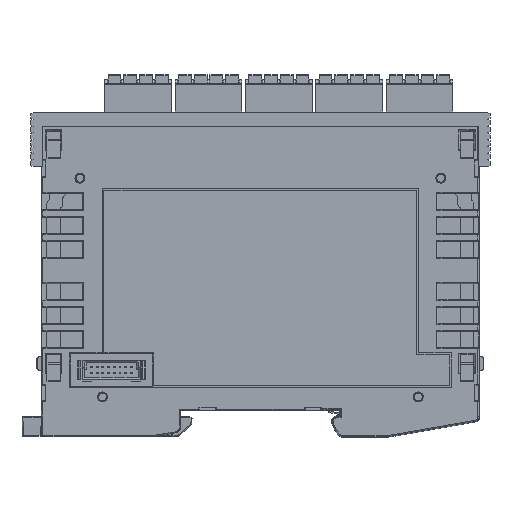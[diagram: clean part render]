
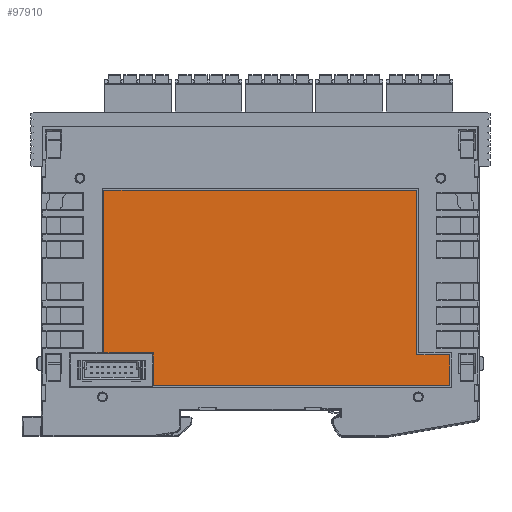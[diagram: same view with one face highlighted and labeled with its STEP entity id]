
A CAD part, left-side view. The second image highlights one B-rep face of the part: STEP entity #97910.
In plain terms, the highlighted planar face has unit normal (-1, 0, 0).
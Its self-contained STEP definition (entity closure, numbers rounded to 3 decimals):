
#1895 = VERTEX_POINT ( 'NONE', #56667 ) ;
#2331 = CARTESIAN_POINT ( 'NONE',  ( 0., 6.455, -57.45 ) ) ;
#4851 = DIRECTION ( 'NONE',  ( -1., 0., 0. ) ) ;
#7561 = VECTOR ( 'NONE', #40316, 1000. ) ;
#13637 = CARTESIAN_POINT ( 'NONE',  ( 0., 72.105, -57.45 ) ) ;
#14894 = ORIENTED_EDGE ( 'NONE', *, *, #114440, .F. ) ;
#15398 = VERTEX_POINT ( 'NONE', #37335 ) ;
#22501 = FACE_OUTER_BOUND ( 'NONE', #51947, .T. ) ;
#26430 = VERTEX_POINT ( 'NONE', #128983 ) ;
#26650 = VECTOR ( 'NONE', #65569, 1000. ) ;
#28659 = VERTEX_POINT ( 'NONE', #62961 ) ;
#29990 = VERTEX_POINT ( 'NONE', #107191 ) ;
#30238 = VERTEX_POINT ( 'NONE', #121022 ) ;
#31588 = DIRECTION ( 'NONE',  ( 0., -1., 0. ) ) ;
#33922 = EDGE_CURVE ( 'NONE', #30238, #98076, #100992, .T. ) ;
#35687 = LINE ( 'NONE', #103636, #7561 ) ;
#37335 = CARTESIAN_POINT ( 'NONE',  ( 0., 72.105, -50.25 ) ) ;
#37644 = DIRECTION ( 'NONE',  ( 0., 1., 0. ) ) ;
#38223 = ORIENTED_EDGE ( 'NONE', *, *, #33922, .F. ) ;
#40316 = DIRECTION ( 'NONE',  ( 0., -1., 0. ) ) ;
#43249 = VERTEX_POINT ( 'NONE', #59829 ) ;
#44661 = CARTESIAN_POINT ( 'NONE',  ( 0., 13.725, -50.65 ) ) ;
#44746 = LINE ( 'NONE', #127268, #100958 ) ;
#45024 = VECTOR ( 'NONE', #119058, 1000. ) ;
#48074 = EDGE_CURVE ( 'NONE', #98076, #1895, #35687, .T. ) ;
#48308 = LINE ( 'NONE', #44661, #45024 ) ;
#51947 = EDGE_LOOP ( 'NONE', ( #68408, #134996, #55657, #38223, #128735, #122258, #14894, #54893 ) ) ;
#54893 = ORIENTED_EDGE ( 'NONE', *, *, #113624, .F. ) ;
#55657 = ORIENTED_EDGE ( 'NONE', *, *, #48074, .F. ) ;
#56667 = CARTESIAN_POINT ( 'NONE',  ( 0., 13.725, -14.2 ) ) ;
#57376 = DIRECTION ( 'NONE',  ( 0., 0., 1. ) ) ;
#58349 = CARTESIAN_POINT ( 'NONE',  ( 0., 83.075, -50.25 ) ) ;
#58704 = VECTOR ( 'NONE', #37644, 1000. ) ;
#59829 = CARTESIAN_POINT ( 'NONE',  ( 0., 72.105, -57.45 ) ) ;
#62961 = CARTESIAN_POINT ( 'NONE',  ( 0., 13.725, -50.65 ) ) ;
#65569 = DIRECTION ( 'NONE',  ( 0., 0., -1. ) ) ;
#65846 = DIRECTION ( 'NONE',  ( 0., 1., 0. ) ) ;
#66654 = EDGE_CURVE ( 'NONE', #1895, #28659, #48308, .T. ) ;
#68084 = CARTESIAN_POINT ( 'NONE',  ( 0., 96.8, 0. ) ) ;
#68408 = ORIENTED_EDGE ( 'NONE', *, *, #69318, .F. ) ;
#68579 = DIRECTION ( 'NONE',  ( 0., 0., 1. ) ) ;
#69318 = EDGE_CURVE ( 'NONE', #28659, #26430, #44746, .T. ) ;
#78221 = CARTESIAN_POINT ( 'NONE',  ( 0., 83.075, -14.2 ) ) ;
#78277 = PLANE ( 'NONE',  #130538 ) ;
#78739 = DIRECTION ( 'NONE',  ( 0., 0., 1. ) ) ;
#79314 = LINE ( 'NONE', #13637, #107395 ) ;
#82019 = VECTOR ( 'NONE', #68579, 1000. ) ;
#97910 = ADVANCED_FACE ( 'NONE', ( #22501 ), #78277, .T. ) ;
#98076 = VERTEX_POINT ( 'NONE', #102284 ) ;
#100958 = VECTOR ( 'NONE', #31588, 1000. ) ;
#100992 = LINE ( 'NONE', #78221, #125799 ) ;
#102284 = CARTESIAN_POINT ( 'NONE',  ( 0., 83.075, -14.2 ) ) ;
#103636 = CARTESIAN_POINT ( 'NONE',  ( 0., 13.725, -14.2 ) ) ;
#107191 = CARTESIAN_POINT ( 'NONE',  ( 0., 6.455, -57.45 ) ) ;
#107395 = VECTOR ( 'NONE', #65846, 1000. ) ;
#110136 = LINE ( 'NONE', #121302, #82019 ) ;
#113624 = EDGE_CURVE ( 'NONE', #26430, #29990, #135838, .T. ) ;
#114440 = EDGE_CURVE ( 'NONE', #29990, #43249, #79314, .T. ) ;
#114954 = LINE ( 'NONE', #58349, #58704 ) ;
#119058 = DIRECTION ( 'NONE',  ( 0., 0., -1. ) ) ;
#121022 = CARTESIAN_POINT ( 'NONE',  ( 0., 83.075, -50.25 ) ) ;
#121302 = CARTESIAN_POINT ( 'NONE',  ( 0., 72.105, -50.25 ) ) ;
#121560 = EDGE_CURVE ( 'NONE', #43249, #15398, #110136, .T. ) ;
#122258 = ORIENTED_EDGE ( 'NONE', *, *, #121560, .F. ) ;
#125799 = VECTOR ( 'NONE', #57376, 1000. ) ;
#127268 = CARTESIAN_POINT ( 'NONE',  ( 0., 6.455, -50.65 ) ) ;
#128735 = ORIENTED_EDGE ( 'NONE', *, *, #135815, .F. ) ;
#128983 = CARTESIAN_POINT ( 'NONE',  ( 0., 6.455, -50.65 ) ) ;
#130538 = AXIS2_PLACEMENT_3D ( 'NONE', #68084, #4851, #78739 ) ;
#134996 = ORIENTED_EDGE ( 'NONE', *, *, #66654, .F. ) ;
#135815 = EDGE_CURVE ( 'NONE', #15398, #30238, #114954, .T. ) ;
#135838 = LINE ( 'NONE', #2331, #26650 ) ;
